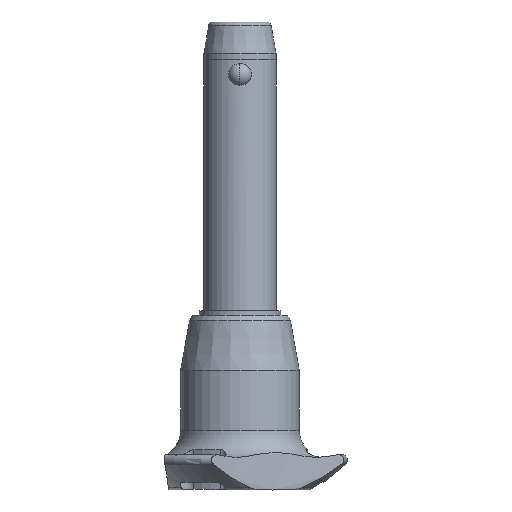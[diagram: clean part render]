
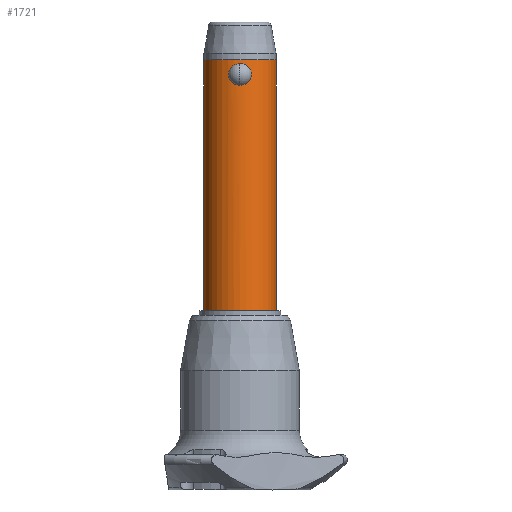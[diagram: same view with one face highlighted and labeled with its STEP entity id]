
A CAD part, front view. The second image highlights one B-rep face of the part: STEP entity #1721.
In plain terms, the highlighted cylindrical face has radius 8 mm (diameter 16 mm), a partial arc.
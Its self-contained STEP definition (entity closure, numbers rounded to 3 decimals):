
#86 = CARTESIAN_POINT ( 'NONE',  ( 1.529, -7.854, 4.312 ) ) ;
#96 = CARTESIAN_POINT ( 'NONE',  ( -2.211, -7.69, 1.148 ) ) ;
#101 = CARTESIAN_POINT ( 'NONE',  ( 2.016, -7.746, 3.891 ) ) ;
#132 = CARTESIAN_POINT ( 'NONE',  ( -2.547, -7.584, 2.229 ) ) ;
#145 = EDGE_LOOP ( 'NONE', ( #2104, #2538 ) ) ;
#291 = ORIENTED_EDGE ( 'NONE', *, *, #2744, .F. ) ;
#293 = EDGE_CURVE ( 'NONE', #1036, #1923, #1770, .T. ) ;
#303 = CARTESIAN_POINT ( 'NONE',  ( -2.529, -7.59, 2.716 ) ) ;
#308 = CARTESIAN_POINT ( 'NONE',  ( 1.253, -7.903, 4.478 ) ) ;
#318 = CARTESIAN_POINT ( 'NONE',  ( -2.003, -7.746, 3.882 ) ) ;
#322 = CARTESIAN_POINT ( 'NONE',  ( 1.529, -7.854, 0.463 ) ) ;
#331 = CARTESIAN_POINT ( 'NONE',  ( -1.106, -7.925, 0.226 ) ) ;
#342 = CARTESIAN_POINT ( 'NONE',  ( 8., 0., -50. ) ) ;
#455 = VECTOR ( 'NONE', #959, 1000. ) ;
#466 = EDGE_CURVE ( 'NONE', #2902, #724, #1004, .T. ) ;
#509 = DIRECTION ( 'NONE',  ( 1., 0., 0. ) ) ;
#517 = CARTESIAN_POINT ( 'NONE',  ( -8., 0., 5.6 ) ) ;
#529 = CARTESIAN_POINT ( 'NONE',  ( 2.408, -7.629, 1.586 ) ) ;
#545 = CARTESIAN_POINT ( 'NONE',  ( 1.252, -7.903, 0.296 ) ) ;
#698 = CARTESIAN_POINT ( 'NONE',  ( 0., 0., 5.6 ) ) ;
#724 = VERTEX_POINT ( 'NONE', #517 ) ;
#733 = CYLINDRICAL_SURFACE ( 'NONE', #2501, 8. ) ;
#753 = CARTESIAN_POINT ( 'NONE',  ( -0.652, -7.979, 0.058 ) ) ;
#767 = CARTESIAN_POINT ( 'NONE',  ( 0., -8., 0. ) ) ;
#788 = CARTESIAN_POINT ( 'NONE',  ( 2.004, -7.746, 0.894 ) ) ;
#801 = CARTESIAN_POINT ( 'NONE',  ( -2.461, -7.612, 1.746 ) ) ;
#820 = CARTESIAN_POINT ( 'NONE',  ( 2.529, -7.59, 2.71 ) ) ;
#844 = B_SPLINE_CURVE_WITH_KNOTS ( 'NONE', 3,
 ( #2330, #2392, #975, #2125, #1483, #2847, #1197, #1888, #1933, #2363, #318, #1258, #1901, #2800, #2173, #303, #2137, #132, #1226, #801, #1434, #96, #1468, #1041, #2107, #1948, #331, #753, #2812, #767 ),
 .UNSPECIFIED., .F., .F.,
 ( 4, 2, 2, 2, 2, 2, 2, 2, 2, 2, 2, 2, 2, 2, 4 ),
 ( 0., 0., 0.001, 0.001, 0.002, 0.002, 0.003, 0.003, 0.004, 0.004, 0.005, 0.006, 0.006, 0.007, 0.008 ),
 .UNSPECIFIED. ) ;
#950 = DIRECTION ( 'NONE',  ( 1., 0., 0. ) ) ;
#959 = DIRECTION ( 'NONE',  ( 0., 0., 1. ) ) ;
#975 = CARTESIAN_POINT ( 'NONE',  ( -0.326, -7.995, 4.761 ) ) ;
#982 = CARTESIAN_POINT ( 'NONE',  ( 0.324, -8., 0. ) ) ;
#988 = FACE_OUTER_BOUND ( 'NONE', #2410, .T. ) ;
#997 = CARTESIAN_POINT ( 'NONE',  ( 2.461, -7.612, 3.027 ) ) ;
#1004 = LINE ( 'NONE', #1225, #455 ) ;
#1010 = CARTESIAN_POINT ( 'NONE',  ( 2.211, -7.69, 3.626 ) ) ;
#1036 = VERTEX_POINT ( 'NONE', #2333 ) ;
#1041 = CARTESIAN_POINT ( 'NONE',  ( -1.659, -7.827, 0.559 ) ) ;
#1044 = CARTESIAN_POINT ( 'NONE',  ( 0.652, -7.979, 0.058 ) ) ;
#1088 = CARTESIAN_POINT ( 'NONE',  ( 0., 0., -50. ) ) ;
#1158 = DIRECTION ( 'NONE',  ( 0., 0., 1. ) ) ;
#1197 = CARTESIAN_POINT ( 'NONE',  ( -1.252, -7.903, 4.479 ) ) ;
#1218 = CARTESIAN_POINT ( 'NONE',  ( 2.528, -7.59, 2.058 ) ) ;
#1225 = CARTESIAN_POINT ( 'NONE',  ( -8., 0., -50. ) ) ;
#1226 = CARTESIAN_POINT ( 'NONE',  ( -2.529, -7.59, 2.064 ) ) ;
#1230 = CARTESIAN_POINT ( 'NONE',  ( 1.657, -7.827, 0.558 ) ) ;
#1245 = CARTESIAN_POINT ( 'NONE',  ( 0., -8., 4.775 ) ) ;
#1258 = CARTESIAN_POINT ( 'NONE',  ( -2.193, -7.694, 3.623 ) ) ;
#1263 = CARTESIAN_POINT ( 'NONE',  ( 0.804, -7.961, 4.661 ) ) ;
#1288 = ORIENTED_EDGE ( 'NONE', *, *, #1644, .T. ) ;
#1306 = DIRECTION ( 'NONE',  ( 0., 0., -1. ) ) ;
#1392 = CARTESIAN_POINT ( 'NONE',  ( 8., 0., 5.6 ) ) ;
#1434 = CARTESIAN_POINT ( 'NONE',  ( -2.411, -7.628, 1.592 ) ) ;
#1468 = CARTESIAN_POINT ( 'NONE',  ( -2.016, -7.746, 0.883 ) ) ;
#1483 = CARTESIAN_POINT ( 'NONE',  ( -0.803, -7.961, 4.661 ) ) ;
#1590 = CARTESIAN_POINT ( 'NONE',  ( 8., 0., -50. ) ) ;
#1643 = CARTESIAN_POINT ( 'NONE',  ( 0., 0., -50. ) ) ;
#1644 = EDGE_CURVE ( 'NONE', #2854, #1695, #2714, .T. ) ;
#1664 = CARTESIAN_POINT ( 'NONE',  ( 2.547, -7.584, 2.549 ) ) ;
#1695 = VERTEX_POINT ( 'NONE', #1392 ) ;
#1696 = CARTESIAN_POINT ( 'NONE',  ( 1.894, -7.773, 0.773 ) ) ;
#1711 = CARTESIAN_POINT ( 'NONE',  ( 2.275, -7.67, 1.291 ) ) ;
#1721 = ADVANCED_FACE ( 'NONE', ( #988, #2781 ), #733, .T. ) ;
#1724 = CARTESIAN_POINT ( 'NONE',  ( 2.194, -7.694, 1.153 ) ) ;
#1750 = CARTESIAN_POINT ( 'NONE',  ( -8., 0., -50. ) ) ;
#1770 = B_SPLINE_CURVE_WITH_KNOTS ( 'NONE', 3,
 ( #1938, #982, #1044, #2832, #545, #322, #1230, #1696, #788, #1724, #1711, #529, #1907, #1218, #2349, #1664, #820, #997, #2142, #1010, #101, #2190, #86, #308, #2864, #1263, #2623, #2817, #2636, #1245 ),
 .UNSPECIFIED., .F., .F.,
 ( 4, 2, 2, 2, 2, 2, 2, 2, 2, 2, 2, 2, 2, 2, 4 ),
 ( 0.008, 0.009, 0.009, 0.01, 0.01, 0.011, 0.011, 0.012, 0.012, 0.013, 0.014, 0.014, 0.015, 0.015, 0.016 ),
 .UNSPECIFIED. ) ;
#1844 = ORIENTED_EDGE ( 'NONE', *, *, #2614, .F. ) ;
#1888 = CARTESIAN_POINT ( 'NONE',  ( -1.527, -7.854, 4.313 ) ) ;
#1901 = CARTESIAN_POINT ( 'NONE',  ( -2.276, -7.67, 3.482 ) ) ;
#1907 = CARTESIAN_POINT ( 'NONE',  ( 2.46, -7.613, 1.742 ) ) ;
#1923 = VERTEX_POINT ( 'NONE', #2215 ) ;
#1933 = CARTESIAN_POINT ( 'NONE',  ( -1.658, -7.827, 4.216 ) ) ;
#1938 = CARTESIAN_POINT ( 'NONE',  ( 0., -8., 0. ) ) ;
#1948 = CARTESIAN_POINT ( 'NONE',  ( -1.254, -7.902, 0.297 ) ) ;
#2104 = ORIENTED_EDGE ( 'NONE', *, *, #2711, .F. ) ;
#2107 = CARTESIAN_POINT ( 'NONE',  ( -1.53, -7.854, 0.464 ) ) ;
#2125 = CARTESIAN_POINT ( 'NONE',  ( -0.645, -7.976, 4.704 ) ) ;
#2137 = CARTESIAN_POINT ( 'NONE',  ( -2.546, -7.584, 2.553 ) ) ;
#2142 = CARTESIAN_POINT ( 'NONE',  ( 2.41, -7.629, 3.184 ) ) ;
#2173 = CARTESIAN_POINT ( 'NONE',  ( -2.459, -7.613, 3.036 ) ) ;
#2190 = CARTESIAN_POINT ( 'NONE',  ( 1.66, -7.827, 4.215 ) ) ;
#2215 = CARTESIAN_POINT ( 'NONE',  ( 0., -8., 4.775 ) ) ;
#2247 = ORIENTED_EDGE ( 'NONE', *, *, #466, .F. ) ;
#2330 = CARTESIAN_POINT ( 'NONE',  ( 0., -8., 4.775 ) ) ;
#2333 = CARTESIAN_POINT ( 'NONE',  ( 0., -8., 0. ) ) ;
#2349 = CARTESIAN_POINT ( 'NONE',  ( 2.546, -7.584, 2.22 ) ) ;
#2351 = VECTOR ( 'NONE', #1158, 1000. ) ;
#2363 = CARTESIAN_POINT ( 'NONE',  ( -1.896, -7.773, 4.001 ) ) ;
#2392 = CARTESIAN_POINT ( 'NONE',  ( -0.164, -8., 4.775 ) ) ;
#2408 = AXIS2_PLACEMENT_3D ( 'NONE', #1088, #1306, #2437 ) ;
#2410 = EDGE_LOOP ( 'NONE', ( #2247, #291, #1288, #1844 ) ) ;
#2437 = DIRECTION ( 'NONE',  ( 1., 0., 0. ) ) ;
#2501 = AXIS2_PLACEMENT_3D ( 'NONE', #1643, #2553, #509 ) ;
#2538 = ORIENTED_EDGE ( 'NONE', *, *, #293, .F. ) ;
#2553 = DIRECTION ( 'NONE',  ( 0., 0., 1. ) ) ;
#2614 = EDGE_CURVE ( 'NONE', #724, #1695, #2701, .T. ) ;
#2623 = CARTESIAN_POINT ( 'NONE',  ( 0.645, -7.976, 4.704 ) ) ;
#2636 = CARTESIAN_POINT ( 'NONE',  ( 0.164, -8., 4.775 ) ) ;
#2701 = CIRCLE ( 'NONE', #2840, 8. ) ;
#2711 = EDGE_CURVE ( 'NONE', #1923, #1036, #844, .T. ) ;
#2714 = LINE ( 'NONE', #1590, #2351 ) ;
#2744 = EDGE_CURVE ( 'NONE', #2854, #2902, #2749, .T. ) ;
#2749 = CIRCLE ( 'NONE', #2408, 8. ) ;
#2760 = DIRECTION ( 'NONE',  ( 0., 0., 1. ) ) ;
#2781 = FACE_BOUND ( 'NONE', #145, .T. ) ;
#2800 = CARTESIAN_POINT ( 'NONE',  ( -2.408, -7.629, 3.189 ) ) ;
#2812 = CARTESIAN_POINT ( 'NONE',  ( -0.324, -8., 0. ) ) ;
#2817 = CARTESIAN_POINT ( 'NONE',  ( 0.326, -7.995, 4.761 ) ) ;
#2832 = CARTESIAN_POINT ( 'NONE',  ( 1.105, -7.925, 0.226 ) ) ;
#2840 = AXIS2_PLACEMENT_3D ( 'NONE', #698, #2760, #950 ) ;
#2847 = CARTESIAN_POINT ( 'NONE',  ( -1.107, -7.924, 4.548 ) ) ;
#2854 = VERTEX_POINT ( 'NONE', #342 ) ;
#2864 = CARTESIAN_POINT ( 'NONE',  ( 1.108, -7.924, 4.548 ) ) ;
#2902 = VERTEX_POINT ( 'NONE', #1750 ) ;
